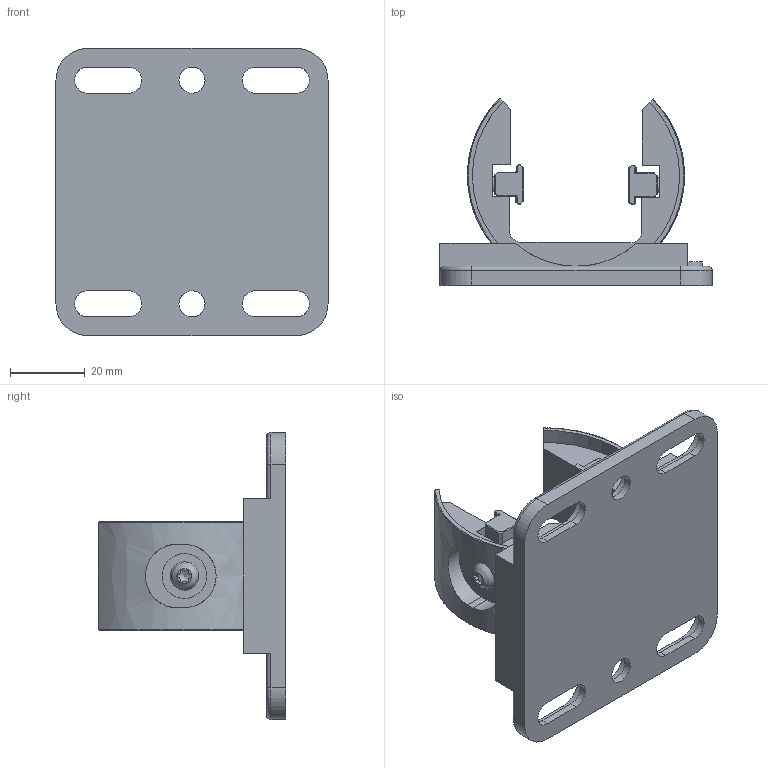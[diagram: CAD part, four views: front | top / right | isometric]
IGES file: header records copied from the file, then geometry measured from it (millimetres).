
Global section: file name: H304906_AMK_Kundendaten; native system: Autodesk Inventor 2017; preprocessor: unknown; author: jebe; date: 20160630.114205; units: millimetre
Bounding box: 73 x 50.17 x 77 mm (x, y, z)
Volume: 52738.2 mm3; surface area: 28163.2 mm2
Topology: 4 solids, 4 shells, 349 faces, 901 edges, 574 vertices
Faces by surface type: bspline 349
